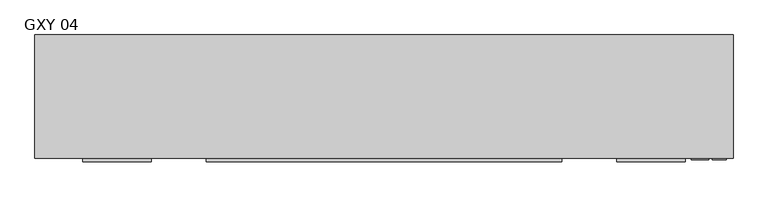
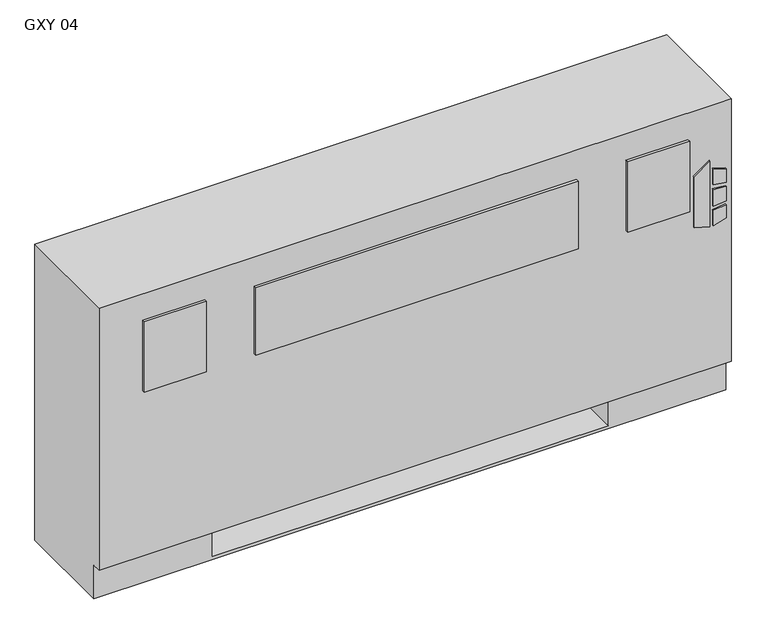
"""IFC4 building model written with IfcOpenShell, lengths in millimetres: proxy geometry, Vertical_Fan_Coil_Unit_-_GXY_-_IEC_-_2-Pipe_FS-FR_RH_2022 : GXY 04."""

from ifc_helpers import new_model, si_unit, point, frame, frame_2d, origin, place, context, project, spatial, polyline, circle_curve, trimmed, segment, composite_curve, outline, extrude, source, transform, mapped, element, save
from ifc_brep_helpers import plane_surface, revolved_surface, advanced_brep


def gxy_04_255bc4dc(model_context):
    return source(origin(), model_context, "Body", "SolidModel", [
        extrude(outline(polyline([(391.6086829, 722.3868862), (381.6606126, 754.5602728), (523.831537, 754.5602728), (500.8095309, 722.3868862), (391.6086829, 722.3868862)])), frame((0.0, 12.7, 0.0), z_axis=(0.0, 1.0, 0.0), x_axis=(0.0, 0.0, 1.0)), (0.0, 0.0, 1.0), 3.175),
        extrude(outline(polyline([(470.6079683, 761.3186058), (467.4055757, 787.4), (496.6344168, 787.4), (504.6988318, 761.3186058), (470.6079683, 761.3186058)])), frame((0.0, 12.7, 0.0), z_axis=(0.0, 1.0, 0.0), x_axis=(0.0, 0.0, 1.0)), (0.0, 0.0, 1.0), 3.175),
        extrude(outline(polyline([(418.7444414, 787.4), (415.0789404, 761.3186058), (381.6606126, 761.3186058), (390.2948498, 787.4), (418.7444414, 787.4)])), frame((0.0, 12.7, 0.0), z_axis=(0.0, 1.0, 0.0), x_axis=(0.0, 0.0, 1.0)), (0.0, 0.0, 1.0), 3.175),
        extrude(outline(polyline([(458.0596028, 787.4), (460.3414292, 761.3186058), (424.4038806, 761.3186058), (427.1451456, 787.4), (458.0596028, 787.4)])), frame((0.0, 12.7, 0.0), z_axis=(0.0, 1.0, 0.0), x_axis=(0.0, 0.0, 1.0)), (0.0, 0.0, 1.0), 3.175),
        extrude(outline(polyline([(-279.4, 9.525), (-406.4, 9.525), (-406.4, 15.875), (-279.4, 15.875), (-279.4, 9.525)])), frame((0.0, 0.0, 431.8), z_axis=(0.0, 0.0, 1.0), x_axis=(1.0, 0.0, 0.0)), (0.0, 0.0, 1.0), 152.4),
        extrude(outline(polyline([(482.6, 9.525), (-177.8, 9.525), (-177.8, 15.875), (482.6, 15.875), (482.6, 9.525)])), frame((0.0, 0.0, 431.8), z_axis=(0.0, 0.0, 1.0), x_axis=(1.0, 0.0, 0.0)), (0.0, 0.0, 1.0), 146.05),
        extrude(outline(polyline([(711.2, 9.525), (584.2, 9.525), (584.2, 15.875), (711.2, 15.875), (711.2, 9.525)])), frame((0.0, 0.0, 431.8), z_axis=(0.0, 0.0, 1.0), x_axis=(1.0, 0.0, 0.0)), (0.0, 0.0, 1.0), 152.4),
        extrude(outline(polyline([(-374.65, 81.534), (-374.65, 223.266), (-127.0, 223.266), (-127.0, 81.534), (-374.65, 81.534)])), frame((0.0, 0.0, 327.025), z_axis=(0.0, 0.0, 1.0), x_axis=(1.0, 0.0, 0.0)), (0.0, 0.0, 1.0), 260.35),
        extrude(outline(composite_curve([segment(trimmed(circle_curve(frame_2d((78.9432, 398.5514)), 7.9375), [point((78.9432, 406.4889))], [point((78.9432, 390.6139))], False, "CARTESIAN"), True, "CONTINUOUS"), segment(trimmed(circle_curve(frame_2d((78.9432, 398.5514)), 7.9375), [point((78.9432, 390.6139))], [point((78.9432, 406.4889))], False, "CARTESIAN"), True, "CONTINUOUS")], self_intersect=False)), frame((558.8, 0.0, 0.0), z_axis=(1.0, 0.0, 0.0), x_axis=(0.0, 1.0, 0.0)), (0.0, 0.0, 1.0), 50.8),
        extrude(outline(composite_curve([segment(trimmed(circle_curve(frame_2d((155.9052, 537.3878)), 7.9375), [point((155.9052, 545.3253))], [point((155.9052, 529.4503))], False, "CARTESIAN"), True, "CONTINUOUS"), segment(trimmed(circle_curve(frame_2d((155.9052, 537.3878)), 7.9375), [point((155.9052, 529.4503))], [point((155.9052, 545.3253))], False, "CARTESIAN"), True, "CONTINUOUS")], self_intersect=False)), frame((558.8, 0.0, 0.0), z_axis=(1.0, 0.0, 0.0), x_axis=(0.0, 1.0, 0.0)), (0.0, 0.0, 1.0), 50.8),
        advanced_brep(
        [(800.1, 244.475, 641.35), (-495.3, 244.475, 641.35), (-495.3, 15.875, 641.35), (800.1, 15.875, 641.35), (-495.3, 244.475, 0.0), (800.1, 244.475, 0.0), (800.1, 34.925, 0.0), (-495.3, 34.925, 0.0), (558.8, 244.475, 73.025), (787.4, 244.475, 73.025), (787.4, 244.475, 628.65), (558.8, 244.475, 628.65), (558.8, 244.475, 418.0400565), (587.375, 244.475, 418.0400565), (587.375, 244.475, 388.4099435), (558.8, 244.475, 388.4099435), (558.8, 244.475, 290.5125), (587.375, 244.475, 290.5125), (587.375, 244.475, 261.9375), (558.8, 244.475, 261.9375), (558.8, 244.475, 119.0625), (587.375, 244.475, 119.0625), (587.375, 244.475, 90.4875), (558.8, 244.475, 90.4875), (-254.0, 244.475, 628.65), (-482.6, 244.475, 628.65), (-482.6, 244.475, 73.025), (-254.0, 244.475, 73.025), (-254.0, 244.475, 90.4875), (-282.575, 244.475, 90.4875), (-282.575, 244.475, 119.0625), (-254.0, 244.475, 119.0625), (-254.0, 244.475, 261.9375), (-282.575, 244.475, 261.9375), (-282.575, 244.475, 290.5125), (-254.0, 244.475, 290.5125), (-254.0, 244.475, 388.4099435), (-282.575, 244.475, 388.4099435), (-282.575, 244.475, 418.0400565), (-254.0, 244.475, 418.0400565), (577.0626, 244.475, 104.775), (565.9374, 244.475, 104.775), (577.0626, 244.475, 403.225), (565.9374, 244.475, 403.225), (577.0626, 244.475, 276.225), (565.9374, 244.475, 276.225), (-261.1374, 244.475, 104.775), (-272.2626, 244.475, 104.775), (-261.1374, 244.475, 276.225), (-272.2626, 244.475, 276.225), (-261.1374, 244.475, 403.225), (-272.2626, 244.475, 403.225), (-495.3, 34.925, 73.025), (-495.3, 15.875, 73.025), (800.1, 15.875, 73.025), (800.1, 34.925, 73.025), (-254.0, 34.925, 73.025), (-254.0, 219.075, 73.025), (558.8, 219.075, 73.025), (558.8, 34.925, 73.025), (558.8, 34.925, 6.35), (-254.0, 34.925, 6.35), (558.8, 41.275, 628.65), (787.4, 41.275, 628.65), (787.4, 41.275, 73.025), (558.8, 41.275, 73.025), (-254.0, 41.275, 628.65), (-254.0, 41.275, 73.025), (-482.6, 41.275, 73.025), (-482.6, 41.275, 628.65), (558.8, 219.075, 73.025), (558.8, 238.125, 90.4875), (558.8, 238.125, 119.0625), (558.8, 238.125, 261.9375), (558.8, 238.125, 290.5125), (558.8, 238.125, 388.4099435), (558.8, 238.125, 418.0400565), (-254.0, 219.075, 73.025), (-254.0, 238.125, 418.0400565), (-254.0, 238.125, 388.4099435), (-254.0, 238.125, 290.5125), (-254.0, 238.125, 261.9375), (-254.0, 238.125, 119.0625), (-254.0, 238.125, 90.4875), (-254.0, 219.075, 6.35), (558.8, 219.075, 6.35), (587.375, 238.125, 90.4875), (587.375, 238.125, 119.0625), (565.9374, 238.125, 104.775), (577.0626, 238.125, 104.775), (587.375, 238.125, 261.9375), (587.375, 238.125, 290.5125), (565.9374, 238.125, 276.225), (577.0626, 238.125, 276.225), (587.375, 238.125, 388.4099435), (587.375, 238.125, 418.0400565), (565.9374, 238.125, 403.225), (577.0626, 238.125, 403.225), (-282.575, 238.125, 119.0625), (-282.575, 238.125, 90.4875), (-272.2626, 238.125, 104.775), (-261.1374, 238.125, 104.775), (-282.575, 238.125, 290.5125), (-282.575, 238.125, 261.9375), (-272.2626, 238.125, 276.225), (-261.1374, 238.125, 276.225), (-282.575, 238.125, 418.0400565), (-282.575, 238.125, 388.4099435), (-272.2626, 238.125, 403.225), (-261.1374, 238.125, 403.225)],
        [
            (0, 1),
            (1, 2),
            (2, 3),
            (3, 0),
            (4, 5),
            (5, 6),
            (6, 7),
            (7, 4),
            (0, 5),
            (4, 1),
            (8, 9),
            (9, 10),
            (10, 11),
            (11, 12),
            (12, 13),
            (13, 14),
            (14, 15),
            (15, 16),
            (16, 17),
            (17, 18),
            (18, 19),
            (19, 20),
            (20, 21),
            (21, 22),
            (22, 23),
            (23, 8),
            (24, 25),
            (25, 26),
            (26, 27),
            (27, 28),
            (28, 29),
            (29, 30),
            (30, 31),
            (31, 32),
            (32, 33),
            (33, 34),
            (34, 35),
            (35, 36),
            (36, 37),
            (37, 38),
            (38, 39),
            (39, 24),
            (40, 41, circle_curve(frame((571.5, 244.475, 104.775), z_axis=(0.0, -1.0, 0.0), x_axis=(-1.0, 0.0, 0.0)), 5.5626)),
            (41, 40, circle_curve(frame((571.5, 244.475, 104.775), z_axis=(0.0, -1.0, 0.0), x_axis=(-1.0, 0.0, 0.0)), 5.5626)),
            (42, 43, circle_curve(frame((571.5, 244.475, 403.225), z_axis=(0.0, -1.0, 0.0), x_axis=(-1.0, 0.0, 0.0)), 5.5626)),
            (43, 42, circle_curve(frame((571.5, 244.475, 403.225), z_axis=(0.0, -1.0, 0.0), x_axis=(-1.0, 0.0, 0.0)), 5.5626)),
            (44, 45, circle_curve(frame((571.5, 244.475, 276.225), z_axis=(0.0, -1.0, 0.0), x_axis=(-1.0, 0.0, 0.0)), 5.5626)),
            (45, 44, circle_curve(frame((571.5, 244.475, 276.225), z_axis=(0.0, -1.0, 0.0), x_axis=(-1.0, 0.0, 0.0)), 5.5626)),
            (46, 47, circle_curve(frame((-266.7, 244.475, 104.775), z_axis=(0.0, -1.0, 0.0), x_axis=(-1.0, 0.0, 0.0)), 5.5626)),
            (47, 46, circle_curve(frame((-266.7, 244.475, 104.775), z_axis=(0.0, -1.0, 0.0), x_axis=(-1.0, 0.0, 0.0)), 5.5626)),
            (48, 49, circle_curve(frame((-266.7, 244.475, 276.225), z_axis=(0.0, -1.0, 0.0), x_axis=(-1.0, 0.0, 0.0)), 5.5626)),
            (49, 48, circle_curve(frame((-266.7, 244.475, 276.225), z_axis=(0.0, -1.0, 0.0), x_axis=(-1.0, 0.0, 0.0)), 5.5626)),
            (50, 51, circle_curve(frame((-266.7, 244.475, 403.225), z_axis=(0.0, -1.0, 0.0), x_axis=(-1.0, 0.0, 0.0)), 5.5626)),
            (51, 50, circle_curve(frame((-266.7, 244.475, 403.225), z_axis=(0.0, -1.0, 0.0), x_axis=(-1.0, 0.0, 0.0)), 5.5626)),
            (7, 52),
            (52, 53),
            (53, 2),
            (53, 54),
            (54, 3),
            (54, 55),
            (55, 6),
            (52, 56),
            (56, 57),
            (57, 58),
            (58, 59),
            (59, 55),
            (59, 60),
            (60, 61),
            (61, 56),
            (62, 63),
            (63, 64),
            (64, 65),
            (65, 62),
            (66, 67),
            (67, 68),
            (68, 69),
            (69, 66),
            (65, 70),
            (70, 8),
            (23, 71),
            (71, 72),
            (72, 20),
            (19, 73),
            (73, 74),
            (74, 16),
            (15, 75),
            (75, 76),
            (76, 12),
            (11, 62),
            (64, 9),
            (63, 10),
            (69, 25),
            (24, 66),
            (68, 26),
            (67, 77),
            (77, 27),
            (39, 78),
            (78, 79),
            (79, 36),
            (35, 80),
            (80, 81),
            (81, 32),
            (31, 82),
            (82, 83),
            (83, 28),
            (57, 84),
            (84, 85),
            (85, 58),
            (85, 60),
            (84, 61),
            (71, 86),
            (86, 87),
            (87, 72),
            (88, 89, circle_curve(frame((571.5, 238.125, 104.775), z_axis=(0.0, 1.0, 0.0), x_axis=(-1.0, 0.0, 0.0)), 5.5626)),
            (89, 88, circle_curve(frame((571.5, 238.125, 104.775), z_axis=(0.0, 1.0, 0.0), x_axis=(-1.0, 0.0, 0.0)), 5.5626)),
            (73, 90),
            (90, 91),
            (91, 74),
            (92, 93, circle_curve(frame((571.5, 238.125, 276.225), z_axis=(0.0, 1.0, 0.0), x_axis=(-1.0, 0.0, 0.0)), 5.5626)),
            (93, 92, circle_curve(frame((571.5, 238.125, 276.225), z_axis=(0.0, 1.0, 0.0), x_axis=(-1.0, 0.0, 0.0)), 5.5626)),
            (75, 94),
            (94, 95),
            (95, 76),
            (96, 97, circle_curve(frame((571.5, 238.125, 403.225), z_axis=(0.0, 1.0, 0.0), x_axis=(-1.0, 0.0, 0.0)), 5.5626)),
            (97, 96, circle_curve(frame((571.5, 238.125, 403.225), z_axis=(0.0, 1.0, 0.0), x_axis=(-1.0, 0.0, 0.0)), 5.5626)),
            (98, 99),
            (99, 83),
            (82, 98),
            (100, 101, circle_curve(frame((-266.7, 238.125, 104.775), z_axis=(0.0, 1.0, 0.0), x_axis=(-1.0, 0.0, 0.0)), 5.5626)),
            (101, 100, circle_curve(frame((-266.7, 238.125, 104.775), z_axis=(0.0, 1.0, 0.0), x_axis=(-1.0, 0.0, 0.0)), 5.5626)),
            (102, 103),
            (103, 81),
            (80, 102),
            (104, 105, circle_curve(frame((-266.7, 238.125, 276.225), z_axis=(0.0, 1.0, 0.0), x_axis=(-1.0, 0.0, 0.0)), 5.5626)),
            (105, 104, circle_curve(frame((-266.7, 238.125, 276.225), z_axis=(0.0, 1.0, 0.0), x_axis=(-1.0, 0.0, 0.0)), 5.5626)),
            (106, 107),
            (107, 79),
            (78, 106),
            (108, 109, circle_curve(frame((-266.7, 238.125, 403.225), z_axis=(0.0, 1.0, 0.0), x_axis=(-1.0, 0.0, 0.0)), 5.5626)),
            (109, 108, circle_curve(frame((-266.7, 238.125, 403.225), z_axis=(0.0, 1.0, 0.0), x_axis=(-1.0, 0.0, 0.0)), 5.5626)),
            (87, 21),
            (86, 22),
            (91, 17),
            (90, 18),
            (95, 13),
            (94, 14),
            (30, 98),
            (99, 29),
            (34, 102),
            (103, 33),
            (38, 106),
            (107, 37),
            (88, 41),
            (40, 89),
            (96, 43),
            (42, 97),
            (92, 45),
            (44, 93),
            (100, 47),
            (46, 101),
            (104, 49),
            (48, 105),
            (108, 51),
            (50, 109),
        ],
        [
            plane_surface(frame((-495.3, 244.475, 641.35), z_axis=(0.0, 0.0, 1.0), x_axis=(-1.0, 0.0, 0.0))),
            plane_surface(frame((-495.3, 244.475, 0.0), z_axis=(0.0, 0.0, -1.0), x_axis=(1.0, 0.0, 0.0))),
            plane_surface(frame((800.1, 244.475, 641.35), z_axis=(0.0, 1.0, 0.0), x_axis=(0.0, 0.0, -1.0))),
            plane_surface(frame((-495.3, 244.475, 641.35), z_axis=(-1.0, 0.0, 0.0), x_axis=(0.0, 0.0, -1.0))),
            plane_surface(frame((-495.3, 15.875, 641.35), z_axis=(0.0, -1.0, 0.0), x_axis=(0.0, 0.0, -1.0))),
            plane_surface(frame((800.1, 15.875, 641.35), z_axis=(1.0, 0.0, 0.0), x_axis=(0.0, 0.0, -1.0))),
            plane_surface(frame((-495.3, 15.875, 73.025), z_axis=(0.0, 0.0, -1.0), x_axis=(1.0, 0.0, 0.0))),
            plane_surface(frame((-495.3, 34.925, 73.025), z_axis=(0.0, -1.0, 0.0), x_axis=(1.0, 0.0, 0.0))),
            plane_surface(frame((558.8, 41.275, 628.65), z_axis=(0.0, 1.0, 0.0), x_axis=(0.0, 0.0, -1.0))),
            plane_surface(frame((558.8, 41.275, 628.65), z_axis=(1.0, 0.0, 0.0), x_axis=(0.0, 1.0, 0.0))),
            plane_surface(frame((558.8, 41.275, 73.025), z_axis=(0.0, 0.0, 1.0), x_axis=(0.0, 1.0, 0.0))),
            plane_surface(frame((787.4, 41.275, 73.025), z_axis=(-1.0, 0.0, 0.0), x_axis=(0.0, 1.0, 0.0))),
            plane_surface(frame((787.4, 41.275, 628.65), z_axis=(0.0, 0.0, -1.0), x_axis=(0.0, 1.0, 0.0))),
            plane_surface(frame((-254.0, 41.275, 628.65), z_axis=(0.0, 0.0, -1.0), x_axis=(0.0, 1.0, 0.0))),
            plane_surface(frame((-482.6, 41.275, 628.65), z_axis=(1.0, 0.0, 0.0), x_axis=(0.0, 1.0, 0.0))),
            plane_surface(frame((-482.6, 41.275, 73.025), z_axis=(0.0, 0.0, 1.0), x_axis=(0.0, 1.0, 0.0))),
            plane_surface(frame((-254.0, 41.275, 73.025), z_axis=(-1.0, 0.0, 0.0), x_axis=(0.0, 1.0, 0.0))),
            plane_surface(frame((558.8, 219.075, 73.025), z_axis=(0.0, -1.0, 0.0), x_axis=(0.0, 0.0, -1.0))),
            plane_surface(frame((558.8, 219.075, 73.025), z_axis=(-1.0, 0.0, 0.0), x_axis=(0.0, -1.0, 0.0))),
            plane_surface(frame((558.8, 219.075, 6.35), z_axis=(0.0, 0.0, 1.0), x_axis=(0.0, -1.0, 0.0))),
            plane_surface(frame((-254.0, 219.075, 6.35), z_axis=(1.0, 0.0, 0.0), x_axis=(0.0, -1.0, 0.0))),
            plane_surface(frame((587.375, 238.125, 119.0625), z_axis=(0.0, -1.0, 0.0), x_axis=(-1.0, 0.0, 0.0))),
            plane_surface(frame((558.8, 244.475, 119.0625), z_axis=(0.0, 0.0, 1.0), x_axis=(0.0, -1.0, 0.0))),
            plane_surface(frame((587.375, 244.475, 119.0625), z_axis=(1.0, 0.0, 0.0), x_axis=(0.0, -1.0, 0.0))),
            plane_surface(frame((587.375, 244.475, 90.4875), z_axis=(0.0, 0.0, -1.0), x_axis=(0.0, -1.0, 0.0))),
            plane_surface(frame((558.8, 244.475, 290.5125), z_axis=(0.0, 0.0, 1.0), x_axis=(0.0, -1.0, 0.0))),
            plane_surface(frame((587.375, 244.475, 290.5125), z_axis=(1.0, 0.0, 0.0), x_axis=(0.0, -1.0, 0.0))),
            plane_surface(frame((587.375, 244.475, 261.9375), z_axis=(0.0, 0.0, -1.0), x_axis=(0.0, -1.0, 0.0))),
            plane_surface(frame((558.8, 244.475, 418.0400565), z_axis=(0.0, 0.0, 1.0), x_axis=(0.0, -1.0, 0.0))),
            plane_surface(frame((587.375, 244.475, 418.0400565), z_axis=(1.0, 0.0, 0.0), x_axis=(0.0, -1.0, 0.0))),
            plane_surface(frame((587.375, 244.475, 388.4099435), z_axis=(0.0, 0.0, -1.0), x_axis=(0.0, -1.0, 0.0))),
            plane_surface(frame((-282.575, 244.475, 119.0625), z_axis=(0.0, 0.0, 1.0), x_axis=(0.0, -1.0, 0.0))),
            plane_surface(frame((-254.0, 244.475, 90.4875), z_axis=(0.0, 0.0, -1.0), x_axis=(0.0, -1.0, 0.0))),
            plane_surface(frame((-282.575, 244.475, 90.4875), z_axis=(-1.0, 0.0, 0.0), x_axis=(0.0, -1.0, 0.0))),
            plane_surface(frame((-282.575, 244.475, 290.5125), z_axis=(0.0, 0.0, 1.0), x_axis=(0.0, -1.0, 0.0))),
            plane_surface(frame((-254.0, 244.475, 261.9375), z_axis=(0.0, 0.0, -1.0), x_axis=(0.0, -1.0, 0.0))),
            plane_surface(frame((-282.575, 244.475, 261.9375), z_axis=(-1.0, 0.0, 0.0), x_axis=(0.0, -1.0, 0.0))),
            plane_surface(frame((-282.575, 244.475, 418.0400565), z_axis=(0.0, 0.0, 1.0), x_axis=(0.0, -1.0, 0.0))),
            plane_surface(frame((-254.0, 244.475, 388.4099435), z_axis=(0.0, 0.0, -1.0), x_axis=(0.0, -1.0, 0.0))),
            plane_surface(frame((-282.575, 244.475, 388.4099435), z_axis=(-1.0, 0.0, 0.0), x_axis=(0.0, -1.0, 0.0))),
            revolved_surface(polyline([(565.9374, 238.125, 104.775), (565.9374, 244.475, 104.775)]), (571.5, 244.475, 104.775), (0.0, -1.0, 0.0)),
            revolved_surface(polyline([(565.9374, 238.125, 403.225), (565.9374, 244.475, 403.225)]), (571.5, 244.475, 403.225), (0.0, -1.0, 0.0)),
            revolved_surface(polyline([(565.9374, 238.125, 276.225), (565.9374, 244.475, 276.225)]), (571.5, 244.475, 276.225), (0.0, -1.0, 0.0)),
            revolved_surface(polyline([(-272.26259999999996, 238.125, 104.775), (-272.26259999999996, 244.475, 104.775)]), (-266.7, 244.475, 104.775), (0.0, -1.0, 0.0)),
            revolved_surface(polyline([(-272.26259999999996, 238.125, 276.225), (-272.26259999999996, 244.475, 276.225)]), (-266.7, 244.475, 276.225), (0.0, -1.0, 0.0)),
            revolved_surface(polyline([(-272.26259999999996, 238.125, 403.225), (-272.26259999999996, 244.475, 403.225)]), (-266.7, 244.475, 403.225), (0.0, -1.0, 0.0)),
        ],
        [
            (0, [[1, 2, 3, 4]]),
            (1, [[5, 6, 7, 8]]),
            (2, [[-1, 9, -5, 10], [11, 12, 13, 14, 15, 16, 17, 18, 19, 20, 21, 22, 23, 24, 25, 26], [27, 28, 29, 30, 31, 32, 33, 34, 35, 36, 37, 38, 39, 40, 41, 42], [43, 44], [45, 46], [47, 48], [49, 50], [51, 52], [53, 54]]),
            (3, [[-2, -10, -8, 55, 56, 57]]),
            (4, [[-3, -57, 58, 59]]),
            (5, [[-4, -59, 60, 61, -6, -9]]),
            (6, [[-56, 62, 63, 64, 65, 66, -60, -58]]),
            (7, [[-7, -61, -66, 67, 68, 69, -62, -55]]),
            (8, [[70, 71, 72, 73]]),
            (8, [[74, 75, 76, 77]]),
            (9, [[-73, 78, 79, -26, 80, 81, 82, -22, 83, 84, 85, -18, 86, 87, 88, -14, 89]]),
            (10, [[-72, 90, -11, -79, -78]]),
            (11, [[-71, 91, -12, -90]]),
            (12, [[-70, -89, -13, -91]]),
            (13, [[-77, 92, -27, 93]]),
            (14, [[-76, 94, -28, -92]]),
            (15, [[-75, 95, 96, -29, -94]]),
            (16, [[-74, -93, -42, 97, 98, 99, -38, 100, 101, 102, -34, 103, 104, 105, -30, -96, -95]]),
            (17, [[-64, 106, 107, 108]]),
            (18, [[-108, 109, -67, -65]]),
            (19, [[-107, 110, -68, -109]]),
            (20, [[-106, -63, -69, -110]]),
            (21, [[111, 112, 113, -81], [114, 115]]),
            (21, [[116, 117, 118, -84], [119, 120]]),
            (21, [[121, 122, 123, -87], [124, 125]]),
            (21, [[126, 127, -104, 128], [129, 130]]),
            (21, [[131, 132, -101, 133], [134, 135]]),
            (21, [[136, 137, -98, 138], [139, 140]]),
            (22, [[-113, 141, -23, -82]]),
            (23, [[-112, 142, -24, -141]]),
            (24, [[-111, -80, -25, -142]]),
            (25, [[-118, 143, -19, -85]]),
            (26, [[-117, 144, -20, -143]]),
            (27, [[-116, -83, -21, -144]]),
            (28, [[-123, 145, -15, -88]]),
            (29, [[-122, 146, -16, -145]]),
            (30, [[-121, -86, -17, -146]]),
            (31, [[-128, -103, -33, 147]]),
            (32, [[-127, 148, -31, -105]]),
            (33, [[-126, -147, -32, -148]]),
            (34, [[-133, -100, -37, 149]]),
            (35, [[-132, 150, -35, -102]]),
            (36, [[-131, -149, -36, -150]]),
            (37, [[-138, -97, -41, 151]]),
            (38, [[-137, 152, -39, -99]]),
            (39, [[-136, -151, -40, -152]]),
            (40, [[153, -43, 154, -114]]),
            (40, [[-153, -115, -154, -44]]),
            (41, [[155, -45, 156, -124]]),
            (41, [[-155, -125, -156, -46]]),
            (42, [[157, -47, 158, -119]]),
            (42, [[-157, -120, -158, -48]]),
            (43, [[159, -49, 160, -129]]),
            (43, [[-159, -130, -160, -50]]),
            (44, [[161, -51, 162, -134]]),
            (44, [[-161, -135, -162, -52]]),
            (45, [[163, -53, 164, -139]]),
            (45, [[-163, -140, -164, -54]]),
        ],
    ),
    ])


if __name__ == "__main__":
    model = new_model("IFC4")
    model_context = context("Model", 3, world=origin())
    ifc_project = project(units=[si_unit("LENGTHUNIT", "METRE", prefix="MILLI")], contexts=[model_context])
    site = spatial("IfcSite", under=ifc_project)
    building = spatial("IfcBuilding", under=site)
    placement = place(None, origin())
    gxy_04_shape = gxy_04_255bc4dc(model_context)
    element("IfcBuildingElementProxy", 1, Name="Vertical_Fan_Coil_Unit_-_GXY_-_IEC_-_2-Pipe_FS-FR_RH_2022 : GXY 04", ObjectType="Vertical_Fan_Coil_Unit_-_GXY_-_IEC_-_2-Pipe_FS-FR_RH_2022 : GXY 04", at=placement, inside=building, context=model_context, shape_type="MappedRepresentation", body=[
        mapped(gxy_04_shape, transform((0.0, 0.0, 0.0), x_axis=(1.0, 0.0, 0.0), y_axis=(0.0, 1.0, 0.0), z_axis=(0.0, 0.0, 1.0))),
    ])
    save(model, "model.ifc")
